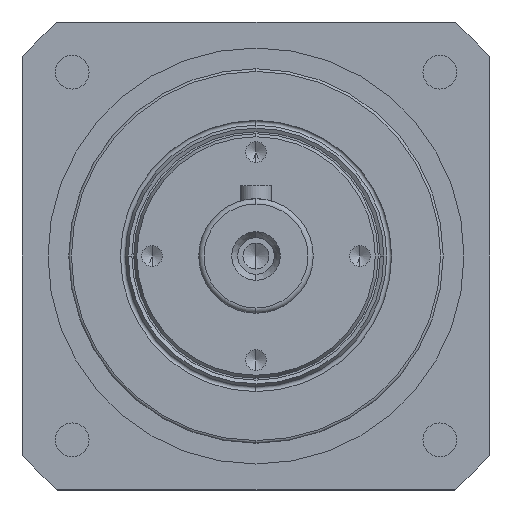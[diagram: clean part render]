
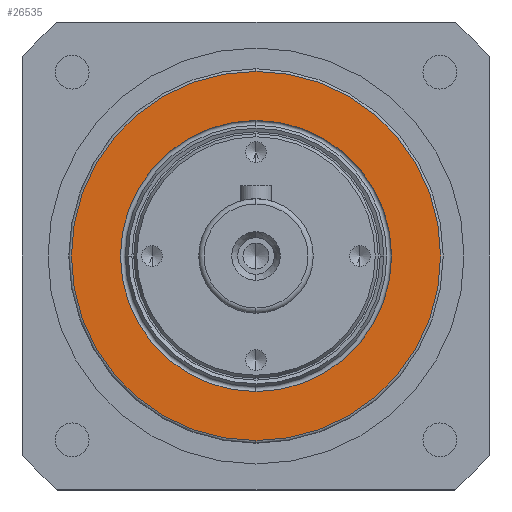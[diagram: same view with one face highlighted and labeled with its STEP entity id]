
A CAD part, left-side view. The second image highlights one B-rep face of the part: STEP entity #26535.
In plain terms, the highlighted planar face has unit normal (-1, 0, 0) as drawn and (0, -1, 0) by its records, which use the part's own axes.
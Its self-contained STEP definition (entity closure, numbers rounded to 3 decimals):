
#1436 = DIRECTION ( 'NONE',  ( 0., 0., 1. ) ) ;
#1466 = DIRECTION ( 'NONE',  ( 0., -1., 0. ) ) ;
#1472 = CARTESIAN_POINT ( 'NONE',  ( 0., 0., 0. ) ) ;
#1901 = EDGE_CURVE ( 'NONE', #6427, #28521, #23670, .T. ) ;
#2079 = FACE_BOUND ( 'NONE', #19172, .T. ) ;
#2783 = EDGE_CURVE ( 'NONE', #2909, #27859, #7665, .T. ) ;
#2872 = EDGE_LOOP ( 'NONE', ( #15845, #8155 ) ) ;
#2909 = VERTEX_POINT ( 'NONE', #21848 ) ;
#3313 = AXIS2_PLACEMENT_3D ( 'NONE', #5043, #5010, #4971 ) ;
#4971 = DIRECTION ( 'NONE',  ( 0., 0., 1. ) ) ;
#5010 = DIRECTION ( 'NONE',  ( 0., -1., 0. ) ) ;
#5043 = CARTESIAN_POINT ( 'NONE',  ( 0., 0., 0. ) ) ;
#6427 = VERTEX_POINT ( 'NONE', #29124 ) ;
#6537 = PLANE ( 'NONE',  #33314 ) ;
#7394 = CIRCLE ( 'NONE', #23596, 26.073 ) ;
#7665 = CIRCLE ( 'NONE', #19795, 26.073 ) ;
#8155 = ORIENTED_EDGE ( 'NONE', *, *, #17108, .T. ) ;
#13549 = ORIENTED_EDGE ( 'NONE', *, *, #2783, .T. ) ;
#15374 = EDGE_CURVE ( 'NONE', #27859, #2909, #7394, .T. ) ;
#15845 = ORIENTED_EDGE ( 'NONE', *, *, #1901, .T. ) ;
#17108 = EDGE_CURVE ( 'NONE', #28521, #6427, #31579, .T. ) ;
#17170 = DIRECTION ( 'NONE',  ( 0., 0., -1. ) ) ;
#17177 = ORIENTED_EDGE ( 'NONE', *, *, #15374, .T. ) ;
#17766 = CARTESIAN_POINT ( 'NONE',  ( 0., 0., -26.073 ) ) ;
#19106 = CARTESIAN_POINT ( 'NONE',  ( 0., 0., -35.5 ) ) ;
#19172 = EDGE_LOOP ( 'NONE', ( #13549, #17177 ) ) ;
#19795 = AXIS2_PLACEMENT_3D ( 'NONE', #26784, #26780, #26756 ) ;
#21848 = CARTESIAN_POINT ( 'NONE',  ( 0., 0., 26.073 ) ) ;
#22314 = FACE_OUTER_BOUND ( 'NONE', #2872, .T. ) ;
#23596 = AXIS2_PLACEMENT_3D ( 'NONE', #32821, #32815, #32780 ) ;
#23670 = CIRCLE ( 'NONE', #3313, 35.5 ) ;
#26535 = ADVANCED_FACE ( 'NONE', ( #2079, #22314 ), #6537, .T. ) ;
#26756 = DIRECTION ( 'NONE',  ( 0., 0., 1. ) ) ;
#26780 = DIRECTION ( 'NONE',  ( 0., 1., 0. ) ) ;
#26784 = CARTESIAN_POINT ( 'NONE',  ( 0., 0., 0. ) ) ;
#27432 = CARTESIAN_POINT ( 'NONE',  ( 0., 0., 35.5 ) ) ;
#27859 = VERTEX_POINT ( 'NONE', #17766 ) ;
#28521 = VERTEX_POINT ( 'NONE', #19106 ) ;
#28951 = AXIS2_PLACEMENT_3D ( 'NONE', #1472, #1466, #1436 ) ;
#29124 = CARTESIAN_POINT ( 'NONE',  ( 0., 0., 35.5 ) ) ;
#31579 = CIRCLE ( 'NONE', #28951, 35.5 ) ;
#32373 = DIRECTION ( 'NONE',  ( 0., -1., 0. ) ) ;
#32780 = DIRECTION ( 'NONE',  ( 0., 0., 1. ) ) ;
#32815 = DIRECTION ( 'NONE',  ( 0., 1., 0. ) ) ;
#32821 = CARTESIAN_POINT ( 'NONE',  ( 0., 0., 0. ) ) ;
#33314 = AXIS2_PLACEMENT_3D ( 'NONE', #27432, #32373, #17170 ) ;
